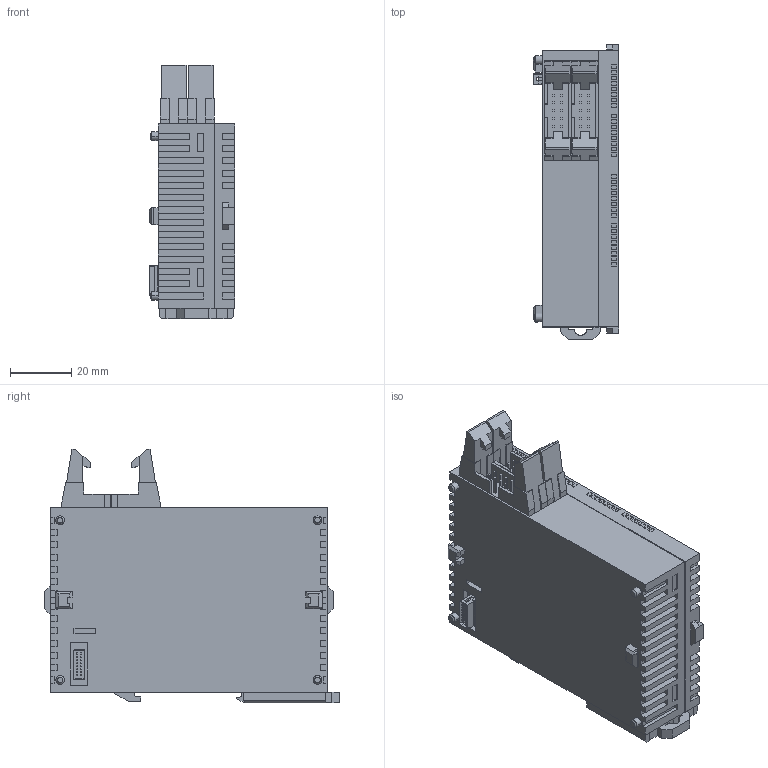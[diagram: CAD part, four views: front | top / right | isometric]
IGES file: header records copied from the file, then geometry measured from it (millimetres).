
Start section: SolidWorks IGES file using analytic representation for surfaces
Global section: file name: C:\catalog\FP0R_catalog\afp0re16x\afp0re16x.IGS; native system: SolidWorks 2010; preprocessor: SolidWorks 2010; author: ek1676; date: 130628.150258; units: millimetre
Bounding box: 28 x 96.05 x 82.7 mm (x, y, z)
Surface area: 27845.1 mm2 (no closed solid volume)
Topology: 0 solids, 0 shells, 940 faces, 5708 edges, 5708 vertices
Faces by surface type: bspline 899, revolution 41
